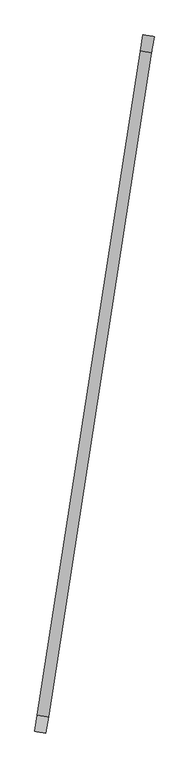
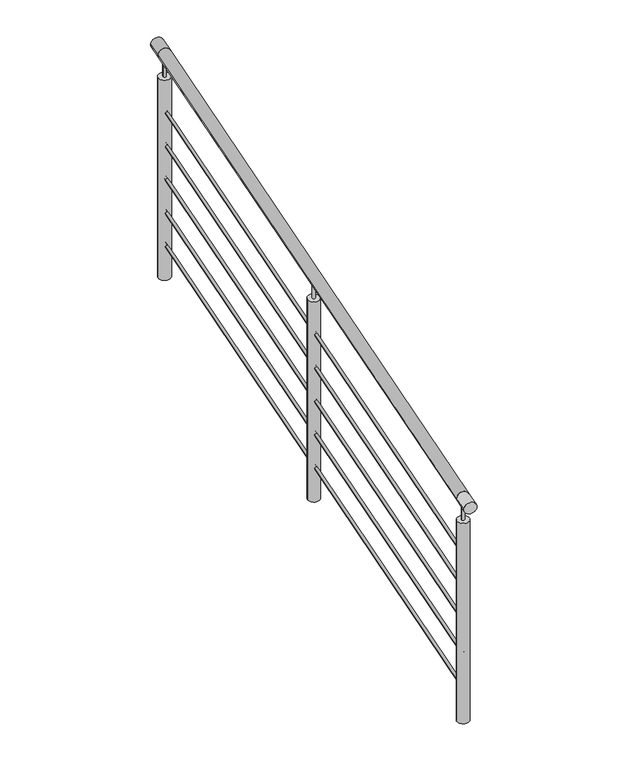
"""IFC4 building model written with IfcOpenShell, lengths in millimetres: railing geometry, Barandal acero inox - sobre balcón."""

from ifc_helpers import new_model, si_unit, point, frame, frame_2d, origin, origin_2d, place, context, project, spatial, circle_curve, trimmed, segment, composite_curve, outline, extrude, source, transform, mapped, element, save


def railing_dea77038(model_context):
    return source(origin(), model_context, "Body", "SweptSolid", [
        extrude(outline(composite_curve([segment(trimmed(circle_curve(origin_2d(), 25.4), [point((-25.4, 0.0))], [point((25.4, 0.0))], False, "CARTESIAN"), True, "CONTINUOUS"), segment(trimmed(circle_curve(origin_2d(), 25.4), [point((25.4, 0.0))], [point((-25.4, 0.0))], False, "CARTESIAN"), True, "CONTINUOUS")], self_intersect=False)), frame((-33520.5298956, -69373.4813061, 4200.0), z_axis=(0.15400987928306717, 0.9880693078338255, 0.0), x_axis=(0.9880693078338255, -0.15400987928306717, 0.0)), (0.0, 0.0, 1.0), 3049.0611062),
        extrude(outline(composite_curve([segment(trimmed(circle_curve(origin_2d(), 6.35), [point((-6.35, 0.0))], [point((6.35, 0.0))], False, "CARTESIAN"), True, "CONTINUOUS"), segment(trimmed(circle_curve(origin_2d(), 6.35), [point((6.35, 0.0))], [point((-6.35, 0.0))], False, "CARTESIAN"), True, "CONTINUOUS")], self_intersect=False)), frame((-33520.5298956, -69373.4813061, 3950.0), z_axis=(0.15400987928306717, 0.9880693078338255, 0.0), x_axis=(0.9880693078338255, -0.15400987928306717, 0.0)), (0.0, 0.0, 1.0), 3049.0611062),
        extrude(outline(composite_curve([segment(trimmed(circle_curve(origin_2d(), 6.35), [point((-6.35, 0.0))], [point((6.35, 0.0))], False, "CARTESIAN"), True, "CONTINUOUS"), segment(trimmed(circle_curve(origin_2d(), 6.35), [point((6.35, 0.0))], [point((-6.35, 0.0))], False, "CARTESIAN"), True, "CONTINUOUS")], self_intersect=False)), frame((-33520.5298956, -69373.4813061, 3800.0), z_axis=(0.15400987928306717, 0.9880693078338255, 0.0), x_axis=(0.9880693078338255, -0.15400987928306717, 0.0)), (0.0, 0.0, 1.0), 3049.0611062),
        extrude(outline(composite_curve([segment(trimmed(circle_curve(origin_2d(), 6.35), [point((-6.35, 0.0))], [point((6.35, 0.0))], False, "CARTESIAN"), True, "CONTINUOUS"), segment(trimmed(circle_curve(origin_2d(), 6.35), [point((6.35, 0.0))], [point((-6.35, 0.0))], False, "CARTESIAN"), True, "CONTINUOUS")], self_intersect=False)), frame((-33520.5298956, -69373.4813061, 3650.0), z_axis=(0.15400987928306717, 0.9880693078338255, 0.0), x_axis=(0.9880693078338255, -0.15400987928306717, 0.0)), (0.0, 0.0, 1.0), 3049.0611062),
        extrude(outline(composite_curve([segment(trimmed(circle_curve(origin_2d(), 6.35), [point((-6.35, 0.0))], [point((6.35, 0.0))], False, "CARTESIAN"), True, "CONTINUOUS"), segment(trimmed(circle_curve(origin_2d(), 6.35), [point((6.35, 0.0))], [point((-6.35, 0.0))], False, "CARTESIAN"), True, "CONTINUOUS")], self_intersect=False)), frame((-33520.5298956, -69373.4813061, 3500.0), z_axis=(0.15400987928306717, 0.9880693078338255, 0.0), x_axis=(0.9880693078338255, -0.15400987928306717, 0.0)), (0.0, 0.0, 1.0), 3049.0611062),
        extrude(outline(composite_curve([segment(trimmed(circle_curve(origin_2d(), 6.35), [point((-6.35, 0.0))], [point((6.35, 0.0))], False, "CARTESIAN"), True, "CONTINUOUS"), segment(trimmed(circle_curve(origin_2d(), 6.35), [point((6.35, 0.0))], [point((-6.35, 0.0))], False, "CARTESIAN"), True, "CONTINUOUS")], self_intersect=False)), frame((-33520.5298956, -69373.4813061, 3350.0), z_axis=(0.15400987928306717, 0.9880693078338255, 0.0), x_axis=(0.9880693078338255, -0.15400987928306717, 0.0)), (0.0, 0.0, 1.0), 3049.0611062),
        extrude(outline(composite_curve([segment(trimmed(circle_curve(frame_2d((-33285.7371291, -67867.1394578)), 6.35), [point((-33279.462889, -67868.1174205))], [point((-33292.0113692, -67866.161495))], False, "CARTESIAN"), True, "CONTINUOUS"), segment(trimmed(circle_curve(frame_2d((-33285.7371291, -67867.1394578)), 6.35), [point((-33292.0113692, -67866.161495))], [point((-33279.462889, -67868.1174205))], False, "CARTESIAN"), True, "CONTINUOUS")], self_intersect=False)), frame((0.0, 0.0, 4099.6), z_axis=(0.0, 0.0, 1.0), x_axis=(1.0, 0.0, 0.0)), (0.0, 0.0, 1.0), 75.0),
        extrude(outline(composite_curve([segment(trimmed(circle_curve(frame_2d((-33285.7371291, -67867.1394578)), 25.4), [point((-33260.6401687, -67871.0513087))], [point((-33310.8340895, -67863.2276068))], False, "CARTESIAN"), True, "CONTINUOUS"), segment(trimmed(circle_curve(frame_2d((-33285.7371291, -67867.1394578)), 25.4), [point((-33310.8340895, -67863.2276068))], [point((-33260.6401687, -67871.0513087))], False, "CARTESIAN"), True, "CONTINUOUS")], self_intersect=False)), frame((0.0, 0.0, 3200.0), z_axis=(0.0, 0.0, 1.0), x_axis=(1.0, 0.0, 0.0)), (0.0, 0.0, 1.0), 899.6),
        extrude(outline(composite_curve([segment(trimmed(circle_curve(frame_2d((0.0, 25.4)), 25.4), [point((0.0, 50.8))], [point((0.0, 0.0))], False, "CARTESIAN"), True, "CONTINUOUS"), segment(trimmed(circle_curve(frame_2d((0.0, 25.4)), 25.4), [point((0.0, 0.0))], [point((0.0, 50.8))], False, "CARTESIAN"), True, "CONTINUOUS")], self_intersect=False)), frame((-33557.1775969, -69443.6746533, 4200.0), z_axis=(0.15400987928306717, 0.9880693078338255, 0.0), x_axis=(0.0, 0.0, 1.0)), (0.0, 0.0, 1.0), 75.0),
        extrude(outline(composite_curve([segment(trimmed(circle_curve(frame_2d((-33520.5298956, -69373.4813061)), 6.35), [point((-33514.2556555, -69374.4592689))], [point((-33526.8041357, -69372.5033434))], False, "CARTESIAN"), True, "CONTINUOUS"), segment(trimmed(circle_curve(frame_2d((-33520.5298956, -69373.4813061)), 6.35), [point((-33526.8041357, -69372.5033434))], [point((-33514.2556555, -69374.4592689))], False, "CARTESIAN"), True, "CONTINUOUS")], self_intersect=False)), frame((0.0, 0.0, 4099.6), z_axis=(0.0, 0.0, 1.0), x_axis=(1.0, 0.0, 0.0)), (0.0, 0.0, 1.0), 75.0),
        extrude(outline(composite_curve([segment(trimmed(circle_curve(frame_2d((-33520.5298956, -69373.4813061)), 25.4), [point((-33495.4329352, -69377.3931571))], [point((-33545.626856, -69369.5694552))], False, "CARTESIAN"), True, "CONTINUOUS"), segment(trimmed(circle_curve(frame_2d((-33520.5298956, -69373.4813061)), 25.4), [point((-33545.626856, -69369.5694552))], [point((-33495.4329352, -69377.3931571))], False, "CARTESIAN"), True, "CONTINUOUS")], self_intersect=False)), frame((0.0, 0.0, 3200.0), z_axis=(0.0, 0.0, 1.0), x_axis=(1.0, 0.0, 0.0)), (0.0, 0.0, 1.0), 899.6),
        extrude(outline(composite_curve([segment(trimmed(circle_curve(frame_2d((0.0, 25.4)), 25.4), [point((0.0, 50.8))], [point((0.0, 0.0))], False, "CARTESIAN"), True, "CONTINUOUS"), segment(trimmed(circle_curve(frame_2d((0.0, 25.4)), 25.4), [point((0.0, 0.0))], [point((0.0, 50.8))], False, "CARTESIAN"), True, "CONTINUOUS")], self_intersect=False)), frame((-33076.0413231, -66356.8857585, 4200.0), z_axis=(0.15400987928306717, 0.9880693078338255, 0.0), x_axis=(0.0, 0.0, 1.0)), (0.0, 0.0, 1.0), 75.0),
        extrude(outline(composite_curve([segment(trimmed(circle_curve(frame_2d((-33050.9443627, -66360.7976094)), 6.35), [point((-33044.6701226, -66361.7755721))], [point((-33057.2186028, -66359.8196467))], False, "CARTESIAN"), True, "CONTINUOUS"), segment(trimmed(circle_curve(frame_2d((-33050.9443627, -66360.7976094)), 6.35), [point((-33057.2186028, -66359.8196467))], [point((-33044.6701226, -66361.7755721))], False, "CARTESIAN"), True, "CONTINUOUS")], self_intersect=False)), frame((0.0, 0.0, 4099.6), z_axis=(0.0, 0.0, 1.0), x_axis=(1.0, 0.0, 0.0)), (0.0, 0.0, 1.0), 75.0),
        extrude(outline(composite_curve([segment(trimmed(circle_curve(frame_2d((-33050.9443627, -66360.7976094)), 25.4), [point((-33025.8474023, -66364.7094603))], [point((-33076.0413231, -66356.8857585))], False, "CARTESIAN"), True, "CONTINUOUS"), segment(trimmed(circle_curve(frame_2d((-33050.9443627, -66360.7976094)), 25.4), [point((-33076.0413231, -66356.8857585))], [point((-33025.8474023, -66364.7094603))], False, "CARTESIAN"), True, "CONTINUOUS")], self_intersect=False)), frame((0.0, 0.0, 3200.0), z_axis=(0.0, 0.0, 1.0), x_axis=(1.0, 0.0, 0.0)), (0.0, 0.0, 1.0), 899.6),
    ])


if __name__ == "__main__":
    model = new_model("IFC4")
    model_context = context("Model", 3, world=origin())
    ifc_project = project(units=[si_unit("LENGTHUNIT", "METRE", prefix="MILLI")], contexts=[model_context])
    site = spatial("IfcSite", under=ifc_project)
    building = spatial("IfcBuilding", under=site)
    placement = place(None, origin())
    railing_shape = railing_dea77038(model_context)
    element("IfcRailing", 1, ObjectType="Barandal acero inox - sobre balcón", at=placement, inside=building, context=model_context, shape_type="MappedRepresentation", body=[
        mapped(railing_shape, transform((0.0, 0.0, 0.0), x_axis=(1.0, 0.0, 0.0), y_axis=(0.0, 1.0, 0.0), z_axis=(0.0, 0.0, 1.0))),
    ])
    save(model, "model.ifc")
